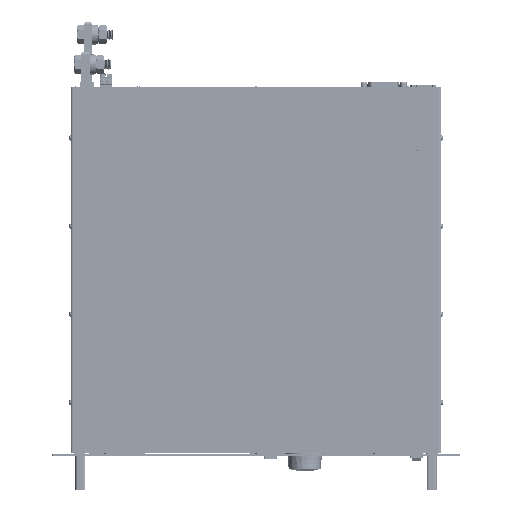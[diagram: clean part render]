
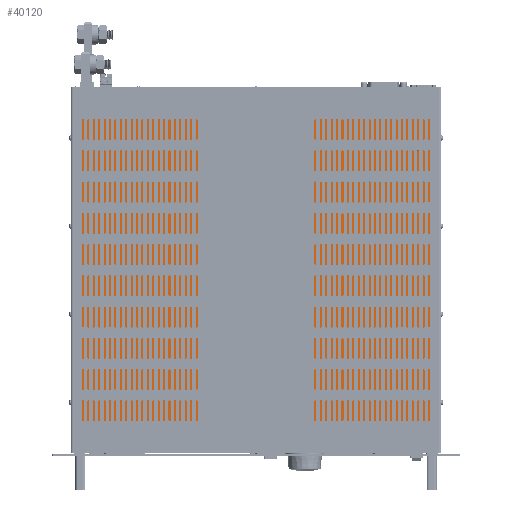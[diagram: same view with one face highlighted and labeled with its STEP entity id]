
A CAD part, top view. The second image highlights one B-rep face of the part: STEP entity #40120.
In plain terms, the highlighted planar face has unit normal (0, 0, 1).
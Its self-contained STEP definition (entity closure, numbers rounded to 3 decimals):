
#40120=ADVANCED_FACE('',(#82404),#82405,.T.);
#82404=FACE_OUTER_BOUND('',#172679,.T.);
#82405=PLANE('',#172680);
#172679=EDGE_LOOP('',(#292147,#292148,#292149,#292150));
#172680=AXIS2_PLACEMENT_3D('',#292151,#292152,#292153);
#292147=ORIENTED_EDGE('',*,*,#344048,.T.);
#292148=ORIENTED_EDGE('',*,*,#344049,.T.);
#292149=ORIENTED_EDGE('',*,*,#344050,.T.);
#292150=ORIENTED_EDGE('',*,*,#344051,.T.);
#292151=CARTESIAN_POINT('',(217.128,205.0,82.227));
#292152=DIRECTION('',(0.0,0.0,1.0));
#292153=DIRECTION('',(1.0,0.0,0.0));
#344048=EDGE_CURVE('',#414373,#414374,#414375,.T.);
#344049=EDGE_CURVE('',#414374,#414376,#414377,.T.);
#344050=EDGE_CURVE('',#414376,#414378,#414379,.T.);
#344051=EDGE_CURVE('',#414378,#414373,#414380,.T.);
#414373=VERTEX_POINT('',#518031);
#414374=VERTEX_POINT('',#518032);
#414375=LINE('',#518033,#518034);
#414376=VERTEX_POINT('',#518035);
#414377=LINE('',#518036,#518037);
#414378=VERTEX_POINT('',#518038);
#414379=LINE('',#518039,#518040);
#414380=LINE('',#518041,#518042);
#518031=CARTESIAN_POINT('',(431.427,0.0,82.227));
#518032=CARTESIAN_POINT('',(431.427,410.0,82.227));
#518033=CARTESIAN_POINT('',(431.427,205.0,82.227));
#518034=VECTOR('',#574407,1.0);
#518035=CARTESIAN_POINT('',(2.828,410.0,82.227));
#518036=CARTESIAN_POINT('',(217.128,410.0,82.227));
#518037=VECTOR('',#574408,1.0);
#518038=CARTESIAN_POINT('',(2.828,0.0,82.227));
#518039=CARTESIAN_POINT('',(2.828,205.0,82.227));
#518040=VECTOR('',#574409,1.0);
#518041=CARTESIAN_POINT('',(217.128,0.0,82.227));
#518042=VECTOR('',#574410,1.0);
#574407=DIRECTION('',(0.0,1.0,0.0));
#574408=DIRECTION('',(-1.0,0.0,0.0));
#574409=DIRECTION('',(0.0,-1.0,0.0));
#574410=DIRECTION('',(1.0,0.0,0.0));
